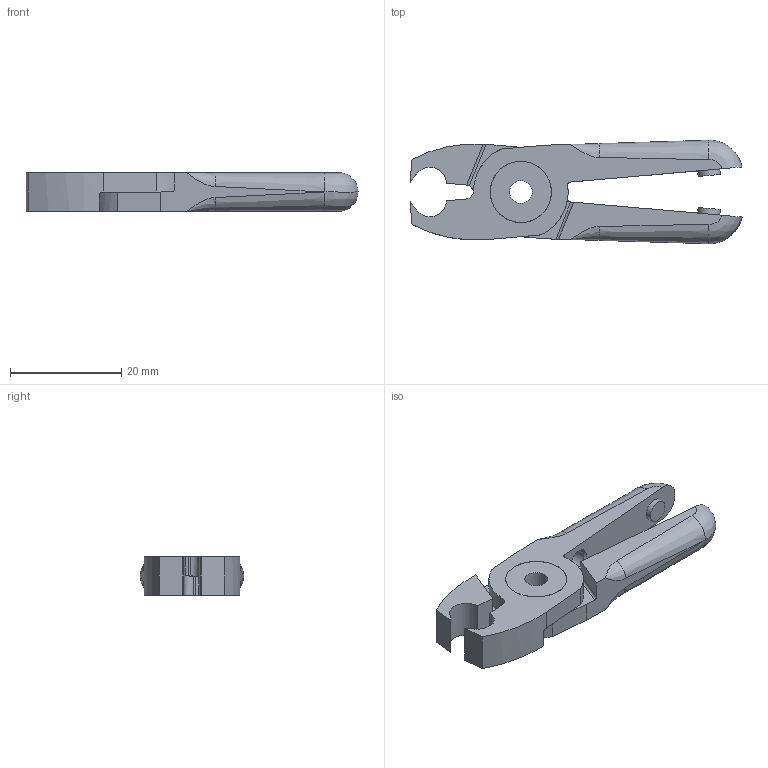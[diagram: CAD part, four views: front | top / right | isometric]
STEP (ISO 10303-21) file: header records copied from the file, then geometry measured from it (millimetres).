
FILE_DESCRIPTION (( 'STEP AP214' ), '1' );
FILE_NAME ('N5AE.STEP', '2019-11-29T03:53:48', ( '微软用户' ), ( '微软中国' ), 'SwSTEP 2.0', 'SolidWorks 2016', '' );
FILE_SCHEMA (( 'AUTOMOTIVE_DESIGN' ));
Length unit declared in the file: millimetre
Products named in the file (4): BR2; BR1; BS; N5AE
Assembly tree (3 placements, depth 2):
  N5AE
    BS
    BR1
    BR2
Bounding box: 59.68 x 18.61 x 7 mm (x, y, z)
Volume: 4686.7 mm3; surface area: 4018.4 mm2
Topology: 3 solids, 3 shells, 95 faces, 247 edges, 154 vertices
Faces by surface type: bspline 45, plane 32, cylinder 14, cone 4
Entity records: 6641 total; most frequent: CARTESIAN_POINT 4592, ORIENTED_EDGE 478, DIRECTION 283, EDGE_CURVE 239, VERTEX_POINT 154, VECTOR 111, LINE 111, EDGE_LOOP 105
